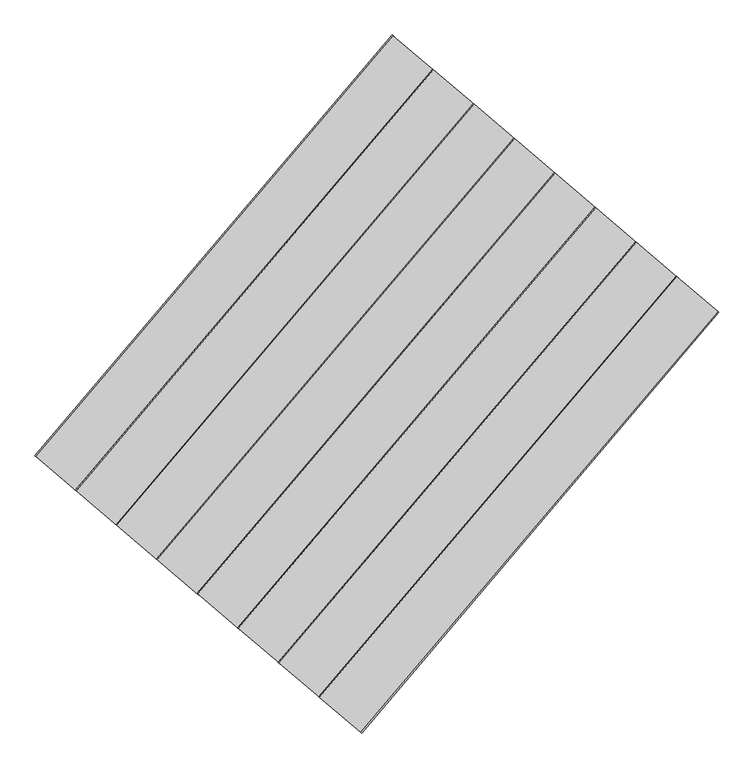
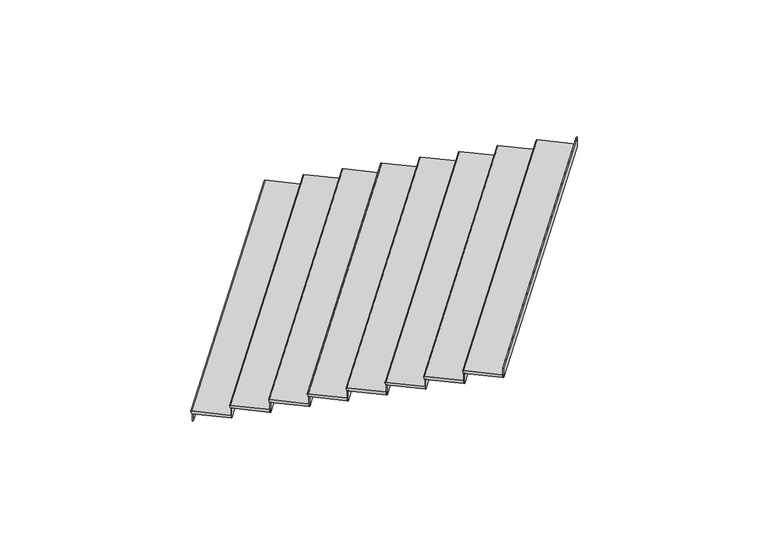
"""IFC4 building model written with IfcOpenShell, lengths in millimetres: stair flight geometry, Wood Steps with 50 mm Tread 20 mm Nosing 13 mm Riser."""

from ifc_helpers import new_model, si_unit, frame, origin, place, context, project, spatial, circle_curve, ellipse_curve, faceted_brep, source, transform, mapped, element, save
from ifc_brep_helpers import plane_surface, cylinder_surface, advanced_brep


def stair_flight_667c7690(model_context):
    return source(origin(), model_context, "Body", "SolidModel", [
        advanced_brep(
        [(838671.0116747, 47498.3591257, 1859.2941176), (838671.0116747, 47498.3591257, 1879.2941176), (842622.8552989, 52151.2034274, 1879.2941176), (842622.8552989, 52151.2034274, 1859.2941176), (843078.9566607, 51763.818606, 1879.2941176), (839127.1087314, 47110.9692356, 1879.2941176), (842622.8552989, 52151.2034274, 1829.2941176), (843078.9566607, 51763.818606, 1829.2941176), (839127.1087314, 47110.9692356, 1829.2941176), (838671.0116747, 47498.3591257, 1829.2941176)],
        [
            (0, 1, ellipse_curve(frame((838671.0116747, 47498.3591257, 1869.2941176), z_axis=(0.6473644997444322, 0.7621805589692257, 0.0), x_axis=(0.7621805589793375, -0.6473644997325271, 0.0)), 10.0, 10.0)),
            (1, 2),
            (2, 3, circle_curve(frame((842622.8552989, 52151.2034274, 1869.2941176), z_axis=(-0.6473560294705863, -0.7621877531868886, 0.0), x_axis=(0.7621877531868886, -0.6473560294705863, 0.0)), 10.0)),
            (3, 0),
            (4, 2),
            (1, 5),
            (5, 4),
            (6, 7),
            (7, 8),
            (8, 9),
            (9, 6),
            (4, 7),
            (6, 3),
            (9, 0),
            (8, 5),
        ],
        [
            cylinder_surface(frame((838671.0116747, 47498.3591257, 1869.2941176), z_axis=(-0.6473560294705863, -0.7621877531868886, 0.0), x_axis=(0.7621877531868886, -0.6473560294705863, 0.0)), 10.0),
            plane_surface(frame((835735.9727417, 58000.5035887, 1879.2941176), z_axis=(0.0, 0.0, 1.0000000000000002), x_axis=(-0.7621877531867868, 0.6473560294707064, 0.0))),
            plane_surface(frame((835735.9727417, 58000.5035887, 1829.2941176), z_axis=(0.0, 0.0, -1.0000000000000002), x_axis=(0.7621877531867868, -0.6473560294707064, 0.0))),
            plane_surface(frame((843078.9566607, 51763.818606, 1879.2941176), z_axis=(0.6473560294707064, 0.7621877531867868, 0.0), x_axis=(0.0, 0.0, -1.0))),
            plane_surface(frame((842622.8552989, 52151.2034274, 1879.2941176), z_axis=(-0.7621877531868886, 0.6473560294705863, 0.0), x_axis=(0.0, 0.0, -1.0))),
            plane_surface(frame((838671.0116747, 47498.3591257, 1879.2941176), z_axis=(-0.6473644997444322, -0.7621805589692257, 0.0), x_axis=(0.0, 0.0, -1.0))),
            plane_surface(frame((839127.1087314, 47110.9692356, 1879.2941176), z_axis=(0.7621877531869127, -0.647356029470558, 0.0), x_axis=(0.0, 0.0, -1.0))),
        ],
        [
            (0, [[1, 2, 3, 4]]),
            (1, [[5, -2, 6, 7]]),
            (2, [[8, 9, 10, 11]]),
            (3, [[-5, 12, -8, 13, -3]]),
            (4, [[-11, 14, -4, -13]]),
            (5, [[-6, -1, -14, -10, 15]]),
            (6, [[-7, -15, -9, -12]]),
        ],
    ),
        faceted_brep([(838678.6334803, 47491.8854807, 1829.2941176), (838678.6334803, 47491.8854807, 1700.0), (838688.1607373, 47483.7934244, 1700.0), (838688.1607373, 47483.7934244, 1829.2941176), (842630.4771764, 52144.7298671, 1829.2941176), (842640.0045233, 52136.6379167, 1829.2941176), (842640.0045233, 52136.6379167, 1700.0), (842630.4771764, 52144.7298671, 1700.0)], [[[0, 1, 2, 3]], [[4, 5, 6, 7]], [[1, 0, 4, 7]], [[2, 1, 7, 6]], [[3, 2, 6, 5]], [[0, 3, 5, 4]]]),
        faceted_brep([(839127.1087314, 47110.9692356, 2008.5882353), (839127.1087314, 47110.9692356, 1829.2941176), (839136.6359884, 47102.8771794, 1829.2941176), (839136.6359884, 47102.8771794, 2008.5882353), (843078.9566607, 51763.818606, 2008.5882353), (843088.4840076, 51755.7266557, 2008.5882353), (843088.4840076, 51755.7266557, 1829.2941176), (843078.9566607, 51763.818606, 1829.2941176)], [[[0, 1, 2, 3]], [[4, 5, 6, 7]], [[1, 0, 4, 7]], [[2, 1, 7, 6]], [[3, 2, 6, 5]], [[0, 3, 5, 4]]]),
        advanced_brep(
        [(843527.4361449, 51382.907345, 2058.5882353), (843071.3347832, 51770.2921663, 2058.5882353), (839119.4869258, 47117.4428806, 2058.5882353), (839575.5839825, 46730.0529905, 2058.5882353), (843071.3347832, 51770.2921663, 2008.5882353), (843527.4361449, 51382.907345, 2008.5882353), (839575.5839825, 46730.0529905, 2008.5882353), (839119.4869258, 47117.4428806, 2008.5882353), (843071.3347832, 51770.2921663, 2038.5882353), (839119.4869258, 47117.4428806, 2038.5882353)],
        [
            (0, 1),
            (1, 2),
            (2, 3),
            (3, 0),
            (4, 5),
            (5, 6),
            (6, 7),
            (7, 4),
            (0, 5),
            (4, 8),
            (8, 1, circle_curve(frame((843071.3347832, 51770.2921663, 2048.5882353), z_axis=(0.647356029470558, 0.7621877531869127, 0.0), x_axis=(0.7621877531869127, -0.647356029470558, 0.0)), 10.0)),
            (7, 9),
            (9, 8),
            (2, 9, ellipse_curve(frame((839119.4869258, 47117.4428806, 2048.5882353), z_axis=(-0.6473644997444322, -0.7621805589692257, 0.0), x_axis=(0.7621805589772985, -0.6473644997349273, 0.0)), 10.0, 10.0)),
            (6, 3),
        ],
        [
            plane_surface(frame((835735.9727417, 58000.5035887, 2058.5882353), z_axis=(0.0, 0.0, 1.0000000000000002), x_axis=(-0.7621877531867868, 0.6473560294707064, 0.0))),
            plane_surface(frame((835735.9727417, 58000.5035887, 2008.5882353), z_axis=(0.0, 0.0, -1.0000000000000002), x_axis=(0.7621877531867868, -0.6473560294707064, 0.0))),
            plane_surface(frame((843527.4361449, 51382.907345, 2058.5882353), z_axis=(0.6473560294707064, 0.7621877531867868, 0.0), x_axis=(0.0, 0.0, -1.0))),
            plane_surface(frame((843071.3347832, 51770.2921663, 2058.5882353), z_axis=(-0.7621877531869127, 0.647356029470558, 0.0), x_axis=(0.0, 0.0, -1.0))),
            plane_surface(frame((839119.4869258, 47117.4428806, 2058.5882353), z_axis=(-0.6473644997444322, -0.7621805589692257, 0.0), x_axis=(0.0, 0.0, -1.0))),
            plane_surface(frame((839575.5839825, 46730.0529905, 2058.5882353), z_axis=(0.7621877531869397, -0.6473560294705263, 0.0), x_axis=(0.0, 0.0, -1.0))),
            cylinder_surface(frame((839119.4869258, 47117.4428806, 2048.5882353), z_axis=(-0.647356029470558, -0.7621877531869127, 0.0), x_axis=(0.7621877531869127, -0.647356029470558, 0.0)), 10.0),
        ],
        [
            (0, [[1, 2, 3, 4]]),
            (1, [[5, 6, 7, 8]]),
            (2, [[-1, 9, -5, 10, 11]]),
            (3, [[-8, 12, 13, -10]]),
            (4, [[-3, 14, -12, -7, 15]]),
            (5, [[-4, -15, -6, -9]]),
            (6, [[-14, -2, -11, -13]]),
        ],
    ),
        faceted_brep([(839575.5839825, 46730.0529905, 2187.8823529), (839575.5839825, 46730.0529905, 2008.5882353), (839585.1112395, 46721.9609343, 2008.5882353), (839585.1112395, 46721.9609343, 2187.8823529), (843527.4361449, 51382.907345, 2187.8823529), (843536.9634918, 51374.8153946, 2187.8823529), (843536.9634918, 51374.8153946, 2008.5882353), (843527.4361449, 51382.907345, 2008.5882353)], [[[0, 1, 2, 3]], [[4, 5, 6, 7]], [[1, 0, 4, 7]], [[2, 1, 7, 6]], [[3, 2, 6, 5]], [[0, 3, 5, 4]]]),
        advanced_brep(
        [(843975.9156292, 51001.9960839, 2237.8823529), (843519.8142674, 51389.3809053, 2237.8823529), (839567.9621769, 46736.5266355, 2237.8823529), (840024.0592337, 46349.1367455, 2237.8823529), (843519.8142674, 51389.3809053, 2187.8823529), (843975.9156292, 51001.9960839, 2187.8823529), (840024.0592337, 46349.1367455, 2187.8823529), (839567.9621769, 46736.5266355, 2187.8823529), (843519.8142674, 51389.3809053, 2217.8823529), (839567.9621769, 46736.5266355, 2217.8823529)],
        [
            (0, 1),
            (1, 2),
            (2, 3),
            (3, 0),
            (4, 5),
            (5, 6),
            (6, 7),
            (7, 4),
            (0, 5),
            (4, 8),
            (8, 1, circle_curve(frame((843519.8142674, 51389.3809053, 2227.8823529), z_axis=(0.6473560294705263, 0.7621877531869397, 0.0), x_axis=(0.7621877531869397, -0.6473560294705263, 0.0)), 10.0)),
            (7, 9),
            (9, 8),
            (2, 9, ellipse_curve(frame((839567.9621769, 46736.5266355, 2227.8823529), z_axis=(-0.6473644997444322, -0.7621805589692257, 0.0), x_axis=(0.762180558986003, -0.647364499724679, 0.0)), 10.0, 10.0)),
            (6, 3),
        ],
        [
            plane_surface(frame((835735.9727417, 58000.5035887, 2237.8823529), z_axis=(0.0, 0.0, 1.0000000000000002), x_axis=(-0.7621877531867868, 0.6473560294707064, 0.0))),
            plane_surface(frame((835735.9727417, 58000.5035887, 2187.8823529), z_axis=(0.0, 0.0, -1.0000000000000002), x_axis=(0.7621877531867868, -0.6473560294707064, 0.0))),
            plane_surface(frame((843975.9156292, 51001.9960839, 2237.8823529), z_axis=(0.6473560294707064, 0.7621877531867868, 0.0), x_axis=(0.0, 0.0, -1.0))),
            plane_surface(frame((843519.8142674, 51389.3809053, 2237.8823529), z_axis=(-0.7621877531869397, 0.6473560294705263, 0.0), x_axis=(0.0, 0.0, -1.0))),
            plane_surface(frame((839567.9621769, 46736.5266355, 2237.8823529), z_axis=(-0.6473644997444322, -0.7621805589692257, 0.0), x_axis=(0.0, 0.0, -1.0))),
            plane_surface(frame((840024.0592337, 46349.1367455, 2237.8823529), z_axis=(0.7621877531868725, -0.6473560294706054, 0.0), x_axis=(0.0, 0.0, -1.0))),
            cylinder_surface(frame((839567.9621769, 46736.5266355, 2227.8823529), z_axis=(-0.6473560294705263, -0.7621877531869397, 0.0), x_axis=(0.7621877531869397, -0.6473560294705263, 0.0)), 10.0),
        ],
        [
            (0, [[1, 2, 3, 4]]),
            (1, [[5, 6, 7, 8]]),
            (2, [[-1, 9, -5, 10, 11]]),
            (3, [[-8, 12, 13, -10]]),
            (4, [[-3, 14, -12, -7, 15]]),
            (5, [[-4, -15, -6, -9]]),
            (6, [[-14, -2, -11, -13]]),
        ],
    ),
        faceted_brep([(840024.0592337, 46349.1367455, 2367.1764706), (840024.0592337, 46349.1367455, 2187.8823529), (840033.5864906, 46341.0446892, 2187.8823529), (840033.5864906, 46341.0446892, 2367.1764706), (843975.9156292, 51001.9960839, 2367.1764706), (843985.4429761, 50993.9041335, 2367.1764706), (843985.4429761, 50993.9041335, 2187.8823529), (843975.9156292, 51001.9960839, 2187.8823529)], [[[0, 1, 2, 3]], [[4, 5, 6, 7]], [[1, 0, 4, 7]], [[2, 1, 7, 6]], [[3, 2, 6, 5]], [[0, 3, 5, 4]]]),
        advanced_brep(
        [(844424.3951134, 50621.0848229, 2417.1764706), (843968.2937517, 51008.4696442, 2417.1764706), (840016.4374281, 46355.6103905, 2417.1764706), (840472.5344848, 45968.2205004, 2417.1764706), (843968.2937517, 51008.4696442, 2367.1764706), (844424.3951134, 50621.0848229, 2367.1764706), (840472.5344848, 45968.2205004, 2367.1764706), (840016.4374281, 46355.6103905, 2367.1764706), (843968.2937517, 51008.4696442, 2397.1764706), (840016.4374281, 46355.6103905, 2397.1764706)],
        [
            (0, 1),
            (1, 2),
            (2, 3),
            (3, 0),
            (4, 5),
            (5, 6),
            (6, 7),
            (7, 4),
            (0, 5),
            (4, 8),
            (8, 1, circle_curve(frame((843968.2937517, 51008.4696442, 2407.1764706), z_axis=(0.6473560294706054, 0.7621877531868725, 0.0), x_axis=(0.7621877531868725, -0.6473560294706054, 0.0)), 10.0)),
            (7, 9),
            (9, 8),
            (2, 9, ellipse_curve(frame((840016.4374281, 46355.6103905, 2407.1764706), z_axis=(-0.6473644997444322, -0.7621805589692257, 0.0), x_axis=(0.7621805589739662, -0.6473644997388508, 0.0)), 10.0, 10.0)),
            (6, 3),
        ],
        [
            plane_surface(frame((835735.9727417, 58000.5035887, 2417.1764706), z_axis=(0.0, 0.0, 1.0000000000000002), x_axis=(-0.7621877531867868, 0.6473560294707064, 0.0))),
            plane_surface(frame((835735.9727417, 58000.5035887, 2367.1764706), z_axis=(0.0, 0.0, -1.0000000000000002), x_axis=(0.7621877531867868, -0.6473560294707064, 0.0))),
            plane_surface(frame((844424.3951134, 50621.0848229, 2417.1764706), z_axis=(0.6473560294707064, 0.7621877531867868, 0.0), x_axis=(0.0, 0.0, -1.0))),
            plane_surface(frame((843968.2937517, 51008.4696442, 2417.1764706), z_axis=(-0.7621877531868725, 0.6473560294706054, 0.0), x_axis=(0.0, 0.0, -1.0))),
            plane_surface(frame((840016.4374281, 46355.6103905, 2417.1764706), z_axis=(-0.6473644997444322, -0.7621805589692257, 0.0), x_axis=(0.0, 0.0, -1.0))),
            plane_surface(frame((840472.5344848, 45968.2205004, 2417.1764706), z_axis=(0.762187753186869, -0.6473560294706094, 0.0), x_axis=(0.0, 0.0, -1.0))),
            cylinder_surface(frame((840016.4374281, 46355.6103905, 2407.1764706), z_axis=(-0.6473560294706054, -0.7621877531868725, 0.0), x_axis=(0.7621877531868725, -0.6473560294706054, 0.0)), 10.0),
        ],
        [
            (0, [[1, 2, 3, 4]]),
            (1, [[5, 6, 7, 8]]),
            (2, [[-1, 9, -5, 10, 11]]),
            (3, [[-8, 12, 13, -10]]),
            (4, [[-3, 14, -12, -7, 15]]),
            (5, [[-4, -15, -6, -9]]),
            (6, [[-14, -2, -11, -13]]),
        ],
    ),
        faceted_brep([(840472.5344848, 45968.2205004, 2546.4705882), (840472.5344848, 45968.2205004, 2367.1764706), (840482.0617418, 45960.1284441, 2367.1764706), (840482.0617418, 45960.1284441, 2546.4705882), (844424.3951134, 50621.0848229, 2546.4705882), (844433.9224604, 50612.9928725, 2546.4705882), (844433.9224604, 50612.9928725, 2367.1764706), (844424.3951134, 50621.0848229, 2367.1764706)], [[[0, 1, 2, 3]], [[4, 5, 6, 7]], [[1, 0, 4, 7]], [[2, 1, 7, 6]], [[3, 2, 6, 5]], [[0, 3, 5, 4]]]),
        advanced_brep(
        [(844872.8745977, 50240.1735618, 2596.4705882), (844416.7732359, 50627.5583832, 2596.4705882), (840464.9126792, 45974.6941454, 2596.4705882), (840921.0097359, 45587.3042553, 2596.4705882), (844416.7732359, 50627.5583832, 2546.4705882), (844872.8745977, 50240.1735618, 2546.4705882), (840921.0097359, 45587.3042553, 2546.4705882), (840464.9126792, 45974.6941454, 2546.4705882), (844416.7732359, 50627.5583832, 2576.4705882), (840464.9126792, 45974.6941454, 2576.4705882)],
        [
            (0, 1),
            (1, 2),
            (2, 3),
            (3, 0),
            (4, 5),
            (5, 6),
            (6, 7),
            (7, 4),
            (0, 5),
            (4, 8),
            (8, 1, circle_curve(frame((844416.7732359, 50627.5583832, 2586.4705882), z_axis=(0.6473560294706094, 0.762187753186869, 0.0), x_axis=(0.762187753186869, -0.6473560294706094, 0.0)), 10.0)),
            (7, 9),
            (9, 8),
            (2, 9, ellipse_curve(frame((840464.9126792, 45974.6941454, 2586.4705882), z_axis=(-0.6473644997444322, -0.7621805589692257, 0.0), x_axis=(0.7621805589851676, -0.6473644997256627, 0.0)), 10.0, 10.0)),
            (6, 3),
        ],
        [
            plane_surface(frame((835735.9727417, 58000.5035887, 2596.4705882), z_axis=(0.0, 0.0, 1.0000000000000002), x_axis=(-0.7621877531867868, 0.6473560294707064, 0.0))),
            plane_surface(frame((835735.9727417, 58000.5035887, 2546.4705882), z_axis=(0.0, 0.0, -1.0000000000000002), x_axis=(0.7621877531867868, -0.6473560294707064, 0.0))),
            plane_surface(frame((844872.8745977, 50240.1735618, 2596.4705882), z_axis=(0.6473560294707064, 0.7621877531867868, 0.0), x_axis=(0.0, 0.0, -1.0))),
            plane_surface(frame((844416.7732359, 50627.5583832, 2596.4705882), z_axis=(-0.762187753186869, 0.6473560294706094, 0.0), x_axis=(0.0, 0.0, -1.0))),
            plane_surface(frame((840464.9126792, 45974.6941454, 2596.4705882), z_axis=(-0.6473644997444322, -0.7621805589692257, 0.0), x_axis=(0.0, 0.0, -1.0))),
            plane_surface(frame((840921.0097359, 45587.3042553, 2596.4705882), z_axis=(0.7621877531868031, -0.6473560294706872, 0.0), x_axis=(0.0, 0.0, -1.0))),
            cylinder_surface(frame((840464.9126792, 45974.6941454, 2586.4705882), z_axis=(-0.6473560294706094, -0.762187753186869, 0.0), x_axis=(0.762187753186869, -0.6473560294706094, 0.0)), 10.0),
        ],
        [
            (0, [[1, 2, 3, 4]]),
            (1, [[5, 6, 7, 8]]),
            (2, [[-1, 9, -5, 10, 11]]),
            (3, [[-8, 12, 13, -10]]),
            (4, [[-3, 14, -12, -7, 15]]),
            (5, [[-4, -15, -6, -9]]),
            (6, [[-14, -2, -11, -13]]),
        ],
    ),
        faceted_brep([(840921.0097359, 45587.3042553, 2725.7647059), (840921.0097359, 45587.3042553, 2546.4705882), (840930.5369929, 45579.2121991, 2546.4705882), (840930.5369929, 45579.2121991, 2725.7647059), (844872.8745977, 50240.1735618, 2725.7647059), (844882.4019446, 50232.0816114, 2725.7647059), (844882.4019446, 50232.0816114, 2546.4705882), (844872.8745977, 50240.1735618, 2546.4705882)], [[[0, 1, 2, 3]], [[4, 5, 6, 7]], [[1, 0, 4, 7]], [[2, 1, 7, 6]], [[3, 2, 6, 5]], [[0, 3, 5, 4]]]),
        advanced_brep(
        [(845321.3540819, 49859.2623008, 2775.7647059), (844865.2527202, 50246.6471221, 2775.7647059), (840913.3879303, 45593.7779003, 2775.7647059), (841369.484987, 45206.3880102, 2775.7647059), (844865.2527202, 50246.6471221, 2725.7647059), (845321.3540819, 49859.2623008, 2725.7647059), (841369.484987, 45206.3880102, 2725.7647059), (840913.3879303, 45593.7779003, 2725.7647059), (844865.2527202, 50246.6471221, 2755.7647059), (840913.3879303, 45593.7779003, 2755.7647059)],
        [
            (0, 1),
            (1, 2),
            (2, 3),
            (3, 0),
            (4, 5),
            (5, 6),
            (6, 7),
            (7, 4),
            (0, 5),
            (4, 8),
            (8, 1, circle_curve(frame((844865.2527202, 50246.6471221, 2765.7647059), z_axis=(0.6473560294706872, 0.7621877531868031, 0.0), x_axis=(0.7621877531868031, -0.6473560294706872, 0.0)), 10.0)),
            (7, 9),
            (9, 8),
            (2, 9, ellipse_curve(frame((840913.3879303, 45593.7779003, 2765.7647059), z_axis=(-0.6473644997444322, -0.7621805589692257, 0.0), x_axis=(0.7621805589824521, -0.6473644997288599, 0.0)), 10.0, 10.0)),
            (6, 3),
        ],
        [
            plane_surface(frame((835735.9727417, 58000.5035887, 2775.7647059), z_axis=(0.0, 0.0, 1.0000000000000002), x_axis=(-0.7621877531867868, 0.6473560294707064, 0.0))),
            plane_surface(frame((835735.9727417, 58000.5035887, 2725.7647059), z_axis=(0.0, 0.0, -1.0000000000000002), x_axis=(0.7621877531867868, -0.6473560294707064, 0.0))),
            plane_surface(frame((845321.3540819, 49859.2623008, 2775.7647059), z_axis=(0.6473560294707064, 0.7621877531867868, 0.0), x_axis=(0.0, 0.0, -1.0))),
            plane_surface(frame((844865.2527202, 50246.6471221, 2775.7647059), z_axis=(-0.7621877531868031, 0.6473560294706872, 0.0), x_axis=(0.0, 0.0, -1.0))),
            plane_surface(frame((840913.3879303, 45593.7779003, 2775.7647059), z_axis=(-0.6473644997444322, -0.7621805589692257, 0.0), x_axis=(0.0, 0.0, -1.0))),
            plane_surface(frame((841369.484987, 45206.3880102, 2775.7647059), z_axis=(0.7621877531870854, -0.6473560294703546, 0.0), x_axis=(0.0, 0.0, -1.0))),
            cylinder_surface(frame((840913.3879303, 45593.7779003, 2765.7647059), z_axis=(-0.6473560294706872, -0.7621877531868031, 0.0), x_axis=(0.7621877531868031, -0.6473560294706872, 0.0)), 10.0),
        ],
        [
            (0, [[1, 2, 3, 4]]),
            (1, [[5, 6, 7, 8]]),
            (2, [[-1, 9, -5, 10, 11]]),
            (3, [[-8, 12, 13, -10]]),
            (4, [[-3, 14, -12, -7, 15]]),
            (5, [[-4, -15, -6, -9]]),
            (6, [[-14, -2, -11, -13]]),
        ],
    ),
        faceted_brep([(841369.484987, 45206.3880102, 2905.0588235), (841369.484987, 45206.3880102, 2725.7647059), (841379.012244, 45198.295954, 2725.7647059), (841379.012244, 45198.295954, 2905.0588235), (845321.3540819, 49859.2623008, 2905.0588235), (845330.8814289, 49851.1703504, 2905.0588235), (845330.8814289, 49851.1703504, 2725.7647059), (845321.3540819, 49859.2623008, 2725.7647059)], [[[0, 1, 2, 3]], [[4, 5, 6, 7]], [[1, 0, 4, 7]], [[2, 1, 7, 6]], [[3, 2, 6, 5]], [[0, 3, 5, 4]]]),
        advanced_brep(
        [(845769.8335662, 49478.3510397, 2955.0588235), (845313.7322044, 49865.7358611, 2955.0588235), (841361.8631814, 45212.8616552, 2955.0588235), (841817.9602382, 44825.4717652, 2955.0588235), (845313.7322044, 49865.7358611, 2905.0588235), (845769.8335662, 49478.3510397, 2905.0588235), (841817.9602382, 44825.4717652, 2905.0588235), (841361.8631814, 45212.8616552, 2905.0588235), (845313.7322044, 49865.7358611, 2935.0588235), (841361.8631814, 45212.8616552, 2935.0588235)],
        [
            (0, 1),
            (1, 2),
            (2, 3),
            (3, 0),
            (4, 5),
            (5, 6),
            (6, 7),
            (7, 4),
            (0, 5),
            (4, 8),
            (8, 1, circle_curve(frame((845313.7322044, 49865.7358611, 2945.0588235), z_axis=(0.6473560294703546, 0.7621877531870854, 0.0), x_axis=(0.7621877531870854, -0.6473560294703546, 0.0)), 10.0)),
            (7, 9),
            (9, 8),
            (2, 9, ellipse_curve(frame((841361.8631814, 45212.8616552, 2945.0588235), z_axis=(-0.6473644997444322, -0.7621805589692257, 0.0), x_axis=(0.7621805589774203, -0.647364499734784, 0.0)), 10.0, 10.0)),
            (6, 3),
        ],
        [
            plane_surface(frame((835735.9727417, 58000.5035887, 2955.0588235), z_axis=(0.0, 0.0, 1.0000000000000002), x_axis=(-0.7621877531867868, 0.6473560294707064, 0.0))),
            plane_surface(frame((835735.9727417, 58000.5035887, 2905.0588235), z_axis=(0.0, 0.0, -1.0000000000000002), x_axis=(0.7621877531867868, -0.6473560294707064, 0.0))),
            plane_surface(frame((845769.8335662, 49478.3510397, 2955.0588235), z_axis=(0.6473560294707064, 0.7621877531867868, 0.0), x_axis=(0.0, 0.0, -1.0))),
            plane_surface(frame((845313.7322044, 49865.7358611, 2955.0588235), z_axis=(-0.7621877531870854, 0.6473560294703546, 0.0), x_axis=(0.0, 0.0, -1.0))),
            plane_surface(frame((841361.8631814, 45212.8616552, 2955.0588235), z_axis=(-0.6473644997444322, -0.7621805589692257, 0.0), x_axis=(0.0, 0.0, -1.0))),
            plane_surface(frame((841817.9602382, 44825.4717652, 2955.0588235), z_axis=(0.7621877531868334, -0.6473560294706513, 0.0), x_axis=(0.0, 0.0, -1.0))),
            cylinder_surface(frame((841361.8631814, 45212.8616552, 2945.0588235), z_axis=(-0.6473560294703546, -0.7621877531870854, 0.0), x_axis=(0.7621877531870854, -0.6473560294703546, 0.0)), 10.0),
        ],
        [
            (0, [[1, 2, 3, 4]]),
            (1, [[5, 6, 7, 8]]),
            (2, [[-1, 9, -5, 10, 11]]),
            (3, [[-8, 12, 13, -10]]),
            (4, [[-3, 14, -12, -7, 15]]),
            (5, [[-4, -15, -6, -9]]),
            (6, [[-14, -2, -11, -13]]),
        ],
    ),
        faceted_brep([(841817.9602381, 44825.4717652, 3084.3529412), (841817.9602381, 44825.4717652, 2905.0588235), (841827.4874951, 44817.3797089, 2905.0588235), (841827.4874951, 44817.3797089, 3084.3529412), (845769.8335662, 49478.3510397, 3084.3529412), (845779.3609131, 49470.2590893, 3084.3529412), (845779.3609131, 49470.2590893, 2905.0588235), (845769.8335662, 49478.3510397, 2905.0588235)], [[[0, 1, 2, 3]], [[4, 5, 6, 7]], [[1, 0, 4, 7]], [[2, 1, 7, 6]], [[3, 2, 6, 5]], [[0, 3, 5, 4]]]),
        faceted_brep([(842266.4354893, 44444.5555201, 3263.6470588), (842266.4354893, 44444.5555201, 3084.3529412), (842275.9627463, 44436.4634638, 3084.3529412), (842275.9627463, 44436.4634638, 3263.6470588), (846218.3130505, 49097.4397787, 3263.6470588), (846227.8403974, 49089.3478283, 3263.6470588), (846227.8403974, 49089.3478283, 3084.3529412), (846218.3130505, 49097.4397787, 3084.3529412)], [[[0, 1, 2, 3]], [[4, 5, 6, 7]], [[1, 0, 4, 7]], [[2, 1, 7, 6]], [[3, 2, 6, 5]], [[0, 3, 5, 4]]]),
        advanced_brep(
        [(846218.3130505, 49097.4397787, 3134.3529412), (845762.2116887, 49484.8246, 3134.3529412), (841810.3384326, 44831.9454102, 3134.3529412), (842266.4354893, 44444.5555201, 3134.3529412), (845762.2116887, 49484.8246, 3084.3529412), (846218.3130505, 49097.4397787, 3084.3529412), (842266.4354893, 44444.5555201, 3084.3529412), (841810.3384326, 44831.9454102, 3084.3529412), (845762.2116887, 49484.8246, 3114.3529412), (841810.3384326, 44831.9454102, 3114.3529412)],
        [
            (0, 1),
            (1, 2),
            (2, 3),
            (3, 0),
            (4, 5),
            (5, 6),
            (6, 7),
            (7, 4),
            (0, 5),
            (4, 8),
            (8, 1, circle_curve(frame((845762.2116887, 49484.8246, 3124.3529412), z_axis=(0.6473560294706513, 0.7621877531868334, 0.0), x_axis=(0.7621877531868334, -0.6473560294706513, 0.0)), 10.0)),
            (7, 9),
            (9, 8),
            (2, 9, ellipse_curve(frame((841810.3384326, 44831.9454102, 3124.3529412), z_axis=(-0.6473644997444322, -0.7621805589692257, 0.0), x_axis=(0.7621805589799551, -0.6473644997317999, 0.0)), 10.0, 10.0)),
            (6, 3),
        ],
        [
            plane_surface(frame((835735.9727417, 58000.5035887, 3134.3529412), z_axis=(0.0, 0.0, 1.0000000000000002), x_axis=(-0.7621877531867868, 0.6473560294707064, 0.0))),
            plane_surface(frame((835735.9727417, 58000.5035887, 3084.3529412), z_axis=(0.0, 0.0, -1.0000000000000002), x_axis=(0.7621877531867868, -0.6473560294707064, 0.0))),
            plane_surface(frame((846218.3130505, 49097.4397787, 3134.3529412), z_axis=(0.6473560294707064, 0.7621877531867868, 0.0), x_axis=(0.0, 0.0, -1.0))),
            plane_surface(frame((845762.2116887, 49484.8246, 3134.3529412), z_axis=(-0.7621877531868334, 0.6473560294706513, 0.0), x_axis=(0.0, 0.0, -1.0))),
            plane_surface(frame((841810.3384326, 44831.9454102, 3134.3529412), z_axis=(-0.6473644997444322, -0.7621805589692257, 0.0), x_axis=(0.0, 0.0, -1.0))),
            plane_surface(frame((842266.4354893, 44444.5555201, 3134.3529412), z_axis=(0.7621877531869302, -0.6473560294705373, 0.0), x_axis=(0.0, 0.0, -1.0))),
            cylinder_surface(frame((841810.3384326, 44831.9454102, 3124.3529412), z_axis=(-0.6473560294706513, -0.7621877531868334, 0.0), x_axis=(0.7621877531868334, -0.6473560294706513, 0.0)), 10.0),
        ],
        [
            (0, [[1, 2, 3, 4]]),
            (1, [[5, 6, 7, 8]]),
            (2, [[-1, 9, -5, 10, 11]]),
            (3, [[-8, 12, 13, -10]]),
            (4, [[-3, 14, -12, -7, 15]]),
            (5, [[-4, -15, -6, -9]]),
            (6, [[-14, -2, -11, -13]]),
        ],
    ),
    ])


if __name__ == "__main__":
    model = new_model("IFC4")
    model_context = context("Model", 3, world=origin())
    ifc_project = project(units=[si_unit("LENGTHUNIT", "METRE", prefix="MILLI")], contexts=[model_context])
    site = spatial("IfcSite", under=ifc_project)
    building = spatial("IfcBuilding", under=site)
    placement = place(None, origin())
    stair_flight_shape = stair_flight_667c7690(model_context)
    element("IfcStairFlight", 1, ObjectType="Wood Steps with 50 mm Tread 20 mm Nosing 13 mm Riser", at=placement, inside=building, context=model_context, shape_type="MappedRepresentation", body=[
        mapped(stair_flight_shape, transform((0.0, 0.0, 0.0), x_axis=(1.0, 0.0, 0.0), y_axis=(0.0, 1.0, 0.0), z_axis=(0.0, 0.0, 1.0))),
    ])
    save(model, "model.ifc")
